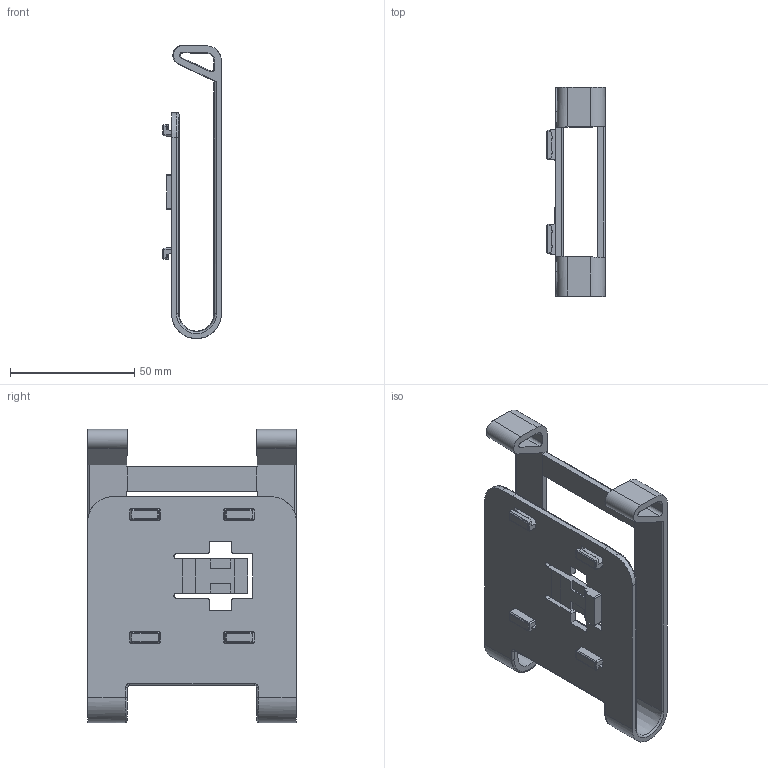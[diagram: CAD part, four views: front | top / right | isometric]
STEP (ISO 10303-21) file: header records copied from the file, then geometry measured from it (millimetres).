
FILE_DESCRIPTION((''),'2;1');
FILE_NAME('ORV3_CABLE-CLIP_021022_2D_TAB','2023-04-04T14:46:17',('juliahuynh'),('Facebook, INC'),'CREO PARAMETRIC BY PTC INC, 2022024','CREO PARAMETRIC BY PTC INC, 2022024','');
FILE_SCHEMA(('AUTOMOTIVE_DESIGN { 1 0 10303 214 1 1 1 1 }'));
Length unit declared in the file: millimetre
Products named in the file (1): ORV3_CABLE-CLIP_021022_2D_TAB
Bounding box: 23.6 x 84 x 118 mm (x, y, z)
Volume: 35101.9 mm3; surface area: 28001.1 mm2
Topology: 1 solids, 1 shells, 529 faces, 1563 edges, 1061 vertices
Faces by surface type: plane 242, extrusion 156, cylinder 89, bspline 18, sphere 14, cone 8, torus 2
Entity records: 24348 total; most frequent: CARTESIAN_POINT 5885, ORIENTED_EDGE 2858, DIRECTION 2118, PRESENTATION_STYLE_ASSIGNMENT 1574, STYLED_ITEM 1574, CURVE_STYLE 1573, EDGE_CURVE 1429, VECTOR 1155
